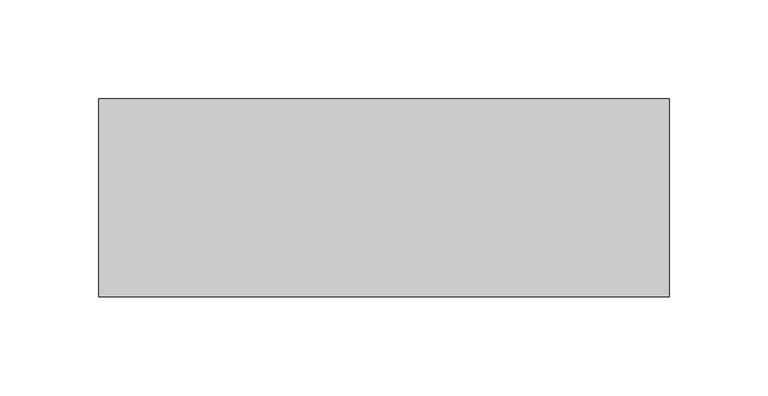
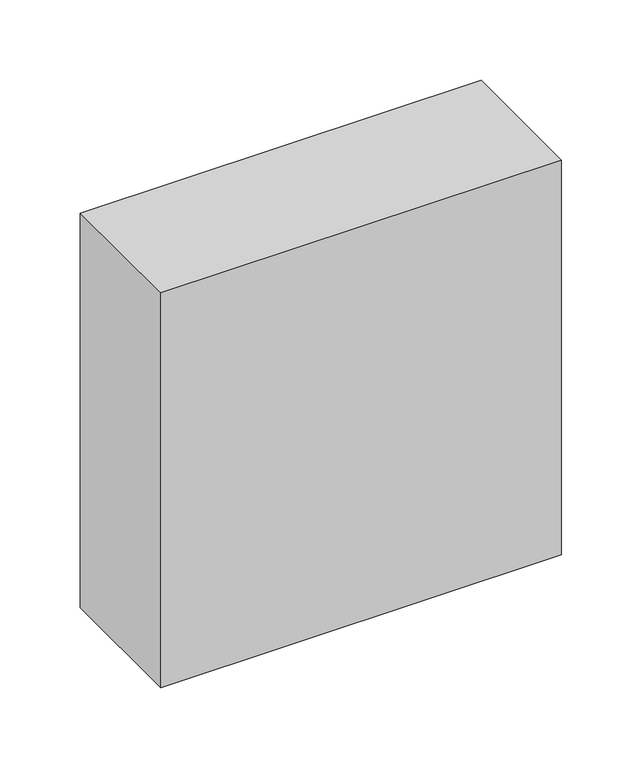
"""IFC4 building model written with IfcOpenShell, lengths in millimetres: plate geometry, 空系统嵌板 : 空."""

from ifc_helpers import new_model, si_unit, origin, origin_with_axes, place, context, project, spatial, polyline, outline, extrude, source, transform, mapped, element, save


def plate_f320fb32(model_context):
    return source(origin(), model_context, "Body", "SweptSolid", [
        extrude(outline(polyline([(144.0, -50.0), (-144.0, -50.0), (-144.0, 50.0), (144.0, 50.0), (144.0, -50.0)])), origin_with_axes(), (0.0, 0.0, 1.0), 300.0),
    ])


if __name__ == "__main__":
    model = new_model("IFC4")
    model_context = context("Model", 3, world=origin())
    ifc_project = project(units=[si_unit("LENGTHUNIT", "METRE", prefix="MILLI")], contexts=[model_context])
    site = spatial("IfcSite", under=ifc_project)
    building = spatial("IfcBuilding", under=site)
    placement = place(None, origin())
    plate_shape = plate_f320fb32(model_context)
    element("IfcPlate", 1, ObjectType="空系统嵌板 : 空", at=placement, inside=building, context=model_context, shape_type="MappedRepresentation", body=[
        mapped(plate_shape, transform((0.0, 0.0, 0.0), x_axis=(1.0, 0.0, 0.0), y_axis=(0.0, 1.0, 0.0), z_axis=(0.0, 0.0, 1.0))),
    ])
    save(model, "model.ifc")
